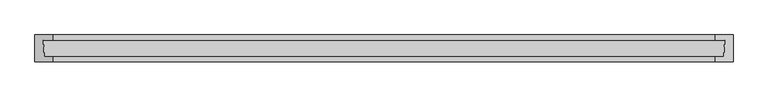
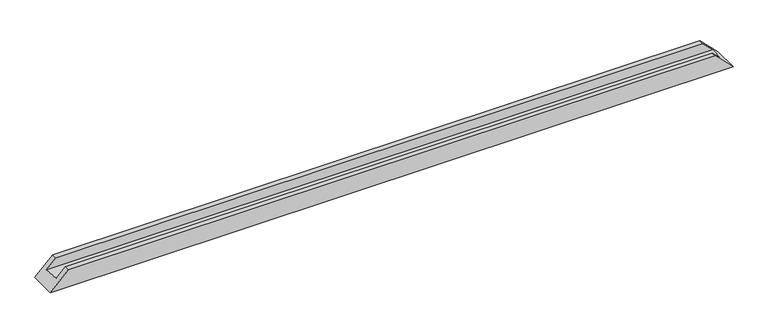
"""IFC4 building model written with IfcOpenShell, lengths in millimetres: proxy geometry, Weiku - Montante - Caixilho duplo 02.2.01.002 : Weiku - Montante - Caixilho duplo 02.2.01.002."""

from ifc_helpers import new_model, si_unit, origin, place, context, project, spatial, faceted_brep, source, transform, mapped, element, save


def generic_models_eb1d3506(model_context):
    return source(origin(), model_context, "Body", "Brep", [
        faceted_brep([(-969.0, 15.0, 26.0), (-943.0, 15.0, 52.0), (943.0, 15.0, 52.0), (969.0, 15.0, 26.0), (-971.2229744, 62.0, 23.7770256), (971.2229744, 62.0, 23.7770256), (-943.0, 62.0, 52.0), (943.0, 62.0, 52.0), (-943.0, 77.0, 52.0), (943.0, 77.0, 52.0), (995.0, 77.0, 0.0), (-995.0, 77.0, 0.0), (995.0, 0.0, 0.0), (-995.0, 0.0, 0.0), (943.0, 0.0, 52.0), (-943.0, 0.0, 52.0)], [[[0, 1, 2, 3]], [[4, 0, 3, 5]], [[6, 4, 5, 7]], [[8, 6, 7, 9]], [[10, 11, 8, 9]], [[11, 10, 12, 13]], [[13, 12, 14, 15]], [[1, 15, 14, 2]], [[1, 0, 4, 6, 8, 11, 13, 15]], [[3, 2, 14, 12, 10, 9, 7, 5]]]),
    ])


if __name__ == "__main__":
    model = new_model("IFC4")
    model_context = context("Model", 3, world=origin())
    ifc_project = project(units=[si_unit("LENGTHUNIT", "METRE", prefix="MILLI")], contexts=[model_context])
    site = spatial("IfcSite", under=ifc_project)
    building = spatial("IfcBuilding", under=site)
    placement = place(None, origin())
    generic_models_shape = generic_models_eb1d3506(model_context)
    element("IfcBuildingElementProxy", 1, Name="Weiku - Montante - Caixilho duplo 02.2.01.002 : Weiku - Montante - Caixilho duplo 02.2.01.002", ObjectType="Weiku - Montante - Caixilho duplo 02.2.01.002 : Weiku - Montante - Caixilho duplo 02.2.01.002", at=placement, inside=building, context=model_context, shape_type="MappedRepresentation", body=[
        mapped(generic_models_shape, transform((0.0, 0.0, 0.0), x_axis=(1.0, 0.0, 0.0), y_axis=(0.0, 1.0, 0.0), z_axis=(0.0, 0.0, 1.0))),
    ])
    save(model, "model.ifc")
